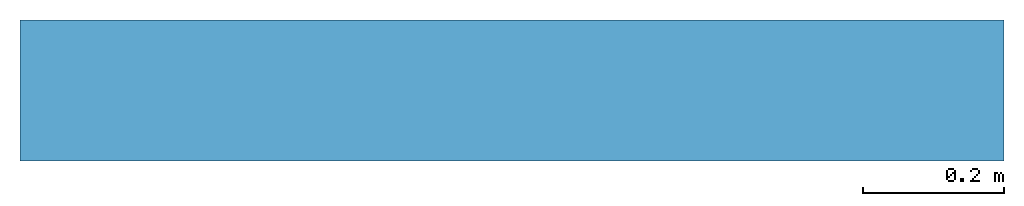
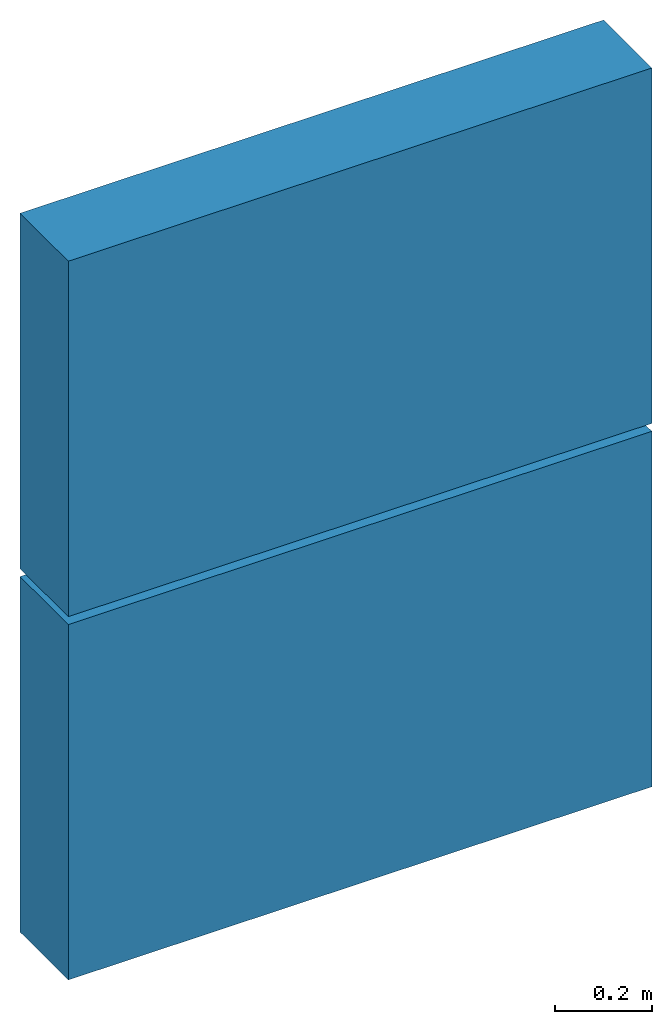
# One storey: 2 beams.
"""IFC2X3 building model written with IfcOpenShell, lengths in millimetres."""

from ifc_helpers import new_model, entity, si_unit, converted_unit, derived_unit, direction, frame, frame_2d, origin, place, context, subcontext, project, spatial, rectangle, extrude, material, type_object, element, save


model = new_model("IFC2X3")

# Units and contexts
model_context = context("Model", 3, precision=0.01, world=origin(), true_north=direction((6.12303176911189e-17, 1.0)))
body_context = subcontext(model_context, "Body", "Model", "MODEL_VIEW")
ifc_project = project(units=[si_unit("LENGTHUNIT", "METRE", prefix="MILLI"), si_unit("AREAUNIT", "SQUARE_METRE"), si_unit("VOLUMEUNIT", "CUBIC_METRE"), converted_unit("PLANEANGLEUNIT", "DEGREE", entity("IfcRatioMeasure", 0.0174532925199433), si_unit("PLANEANGLEUNIT", "RADIAN"), dimensions=[0, 0, 0, 0, 0, 0, 0]), si_unit("MASSUNIT", "GRAM", prefix="KILO"), derived_unit("MASSDENSITYUNIT", [(si_unit("MASSUNIT", "GRAM", prefix="KILO"), 1), (si_unit("LENGTHUNIT", "METRE"), -3)]), derived_unit("MOMENTOFINERTIAUNIT", [(si_unit("LENGTHUNIT", "METRE"), 4)]), si_unit("TIMEUNIT", "SECOND"), si_unit("FREQUENCYUNIT", "HERTZ"), si_unit("THERMODYNAMICTEMPERATUREUNIT", "DEGREE_CELSIUS"), derived_unit("THERMALTRANSMITTANCEUNIT", [(si_unit("MASSUNIT", "GRAM", prefix="KILO"), 1), (si_unit("THERMODYNAMICTEMPERATUREUNIT", "KELVIN"), -1), (si_unit("TIMEUNIT", "SECOND"), -3)]), derived_unit("VOLUMETRICFLOWRATEUNIT", [(si_unit("LENGTHUNIT", "METRE"), 3), (si_unit("TIMEUNIT", "SECOND"), -1)]), si_unit("ELECTRICCURRENTUNIT", "AMPERE"), si_unit("ELECTRICVOLTAGEUNIT", "VOLT"), si_unit("POWERUNIT", "WATT"), si_unit("FORCEUNIT", "NEWTON", prefix="KILO"), si_unit("ILLUMINANCEUNIT", "LUX"), si_unit("LUMINOUSFLUXUNIT", "LUMEN"), si_unit("LUMINOUSINTENSITYUNIT", "CANDELA"), derived_unit("USERDEFINED", [(si_unit("MASSUNIT", "GRAM", prefix="KILO"), -1), (si_unit("LENGTHUNIT", "METRE"), -2), (si_unit("TIMEUNIT", "SECOND"), 3), (si_unit("LUMINOUSFLUXUNIT", "LUMEN"), 1)]), derived_unit("LINEARVELOCITYUNIT", [(si_unit("LENGTHUNIT", "METRE"), 1), (si_unit("TIMEUNIT", "SECOND"), -1)]), si_unit("PRESSUREUNIT", "PASCAL"), derived_unit("USERDEFINED", [(si_unit("LENGTHUNIT", "METRE"), -2), (si_unit("MASSUNIT", "GRAM", prefix="KILO"), 1), (si_unit("TIMEUNIT", "SECOND"), -2)]), derived_unit("LINEARFORCEUNIT", [(si_unit("MASSUNIT", "GRAM", prefix="KILO"), 1), (si_unit("LENGTHUNIT", "METRE"), 1), (si_unit("TIMEUNIT", "SECOND"), -2), (si_unit("LENGTHUNIT", "METRE"), -1)]), derived_unit("PLANARFORCEUNIT", [(si_unit("MASSUNIT", "GRAM", prefix="KILO"), 1), (si_unit("LENGTHUNIT", "METRE"), 1), (si_unit("TIMEUNIT", "SECOND"), -2), (si_unit("LENGTHUNIT", "METRE"), -2)])], contexts=[model_context])

# Site, building, storey
site_placement = place(None, frame((10627.5135316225, 21939.0796949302, 0.0)))
site = spatial("IfcSite", under=ifc_project, at=site_placement, Name="Default", CompositionType="ELEMENT")
building_placement = place(site_placement, origin())
building = spatial("IfcBuilding", under=site, at=building_placement, CompositionType="ELEMENT")
storey_placement = place(building_placement, frame((0.0, 0.0, 10840.0)))
storey = spatial("IfcBuildingStorey", under=building, at=storey_placement, Name="TOITURE", CompositionType="ELEMENT", Elevation=10840.0)

# Beams
ifc_material = material(Name="Concrete, Precast Smooth, Light Grey")
beam_type = type_object("IfcBeamType", Name="NBS_AndertonConcreteProductsLtd_PrcstConcPnls_BallastBoard300:PPT TYPE7", PredefinedType="NOTDEFINED")
beam_1_placement = place(storey_placement, origin())
element("IfcBeam", 1, at=beam_1_placement, inside=storey, type_object=beam_type, material=ifc_material, Name="NBS_AndertonConcreteProductsLtd_PrcstConcPnls_BallastBoard300:PPT TYPE7", ObjectType="NBS_AndertonConcreteProductsLtd_PrcstConcPnls_BallastBoard300:PPT TYPE7", context=body_context, shape_type="SweptSolid", body=[
    extrude(rectangle(XDim=898.300000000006, YDim=200.0, at=frame_2d((-1.08002495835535e-12, -1.08713038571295e-12), x_axis=(1.0, 0.0))), frame((51784.4864683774, 16595.9203050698, -116.149999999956), z_axis=(1.0, 0.0, 0.0), x_axis=(0.0, 0.0, -1.0)), (0.0, 0.0, 1.0), 1395.0),
])
beam_2_placement = place(storey_placement, origin())
element("IfcBeam", 2, at=beam_2_placement, inside=storey, type_object=beam_type, material=ifc_material, Name="NBS_AndertonConcreteProductsLtd_PrcstConcPnls_BallastBoard300:PPT TYPE7", ObjectType="NBS_AndertonConcreteProductsLtd_PrcstConcPnls_BallastBoard300:PPT TYPE7", context=body_context, shape_type="SweptSolid", body=[
    extrude(rectangle(XDim=898.300000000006, YDim=200.0, at=frame_2d((-1.62003743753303e-12, -1.08713038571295e-12), x_axis=(1.0, 0.0))), frame((51784.4864683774, 16595.9203050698, -1034.44999999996), z_axis=(1.0, 0.0, 0.0), x_axis=(0.0, 0.0, -1.0)), (0.0, 0.0, 1.0), 1395.0),
])

save(model, "model.ifc")
